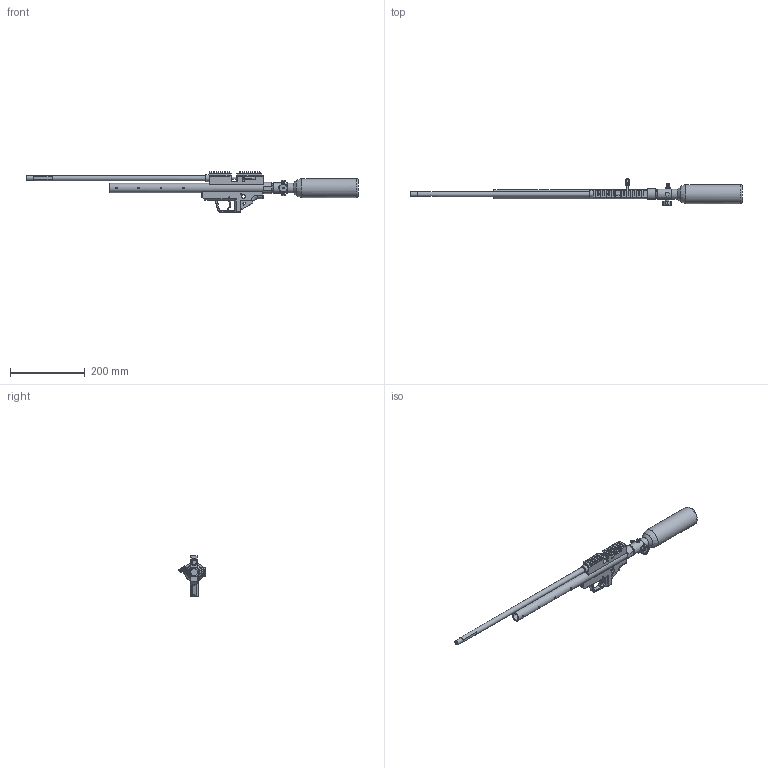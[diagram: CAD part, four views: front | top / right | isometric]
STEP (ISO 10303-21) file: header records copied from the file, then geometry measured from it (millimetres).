
FILE_DESCRIPTION(/* description */ ('Unknown'),/* implementation_level */ '2;1');
FILE_NAME(/* name */ 'Iskra Goła',/* time_stamp */ '2025-07-28T15:51:13+02:00',/* author */ ('Unknown'),/* organization */ ('Unknown'),/* preprocessor_version */ 'ST-DEVELOPER v16.7',/* originating_system */ 'DEX',/* authorisation */ $);
FILE_SCHEMA (('AUTOMOTIVE_DESIGN {1 0 10303 214 3 1 1}'));
Length unit declared in the file: millimetre
Products named in the file (1): Iskra Gola
Bounding box: 888.33 x 71.15 x 107.63 mm (x, y, z)
Volume: 701844.8 mm3; surface area: 179231.8 mm2
Topology: 4 solids, 6 shells, 583 faces, 1508 edges, 970 vertices
Faces by surface type: plane 270, cylinder 234, torus 29, sphere 26, cone 13, bspline 11
Full cylindrical faces by diameter (mm): 1.5 x1, 2 x6, 3 x7, 3.1 x1, 3.5 x4, 4 x5, 4.2 x11, 4.5 x9, 5 x2, 5.1 x1, 5.5 x4, 6 x3, 6.5 x1, 7 x3, 7.5 x3, 8 x6, 9 x2, 9.7 x3, 10 x10, 11 x2, 12 x1, 12.9 x2, 13 x2, 14 x1, 14.5 x1, 17 x2, 17.5 x1, 17.7 x1, 18.7 x1, 18.9 x1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
Entity records: 20612 total; most frequent: CARTESIAN_POINT 4671, DIRECTION 2738, ORIENTED_EDGE 2592, EDGE_CURVE 1296, AXIS2_PLACEMENT_3D 1021, VERTEX_POINT 894, EDGE_LOOP 842, FACE_BOUND 842
